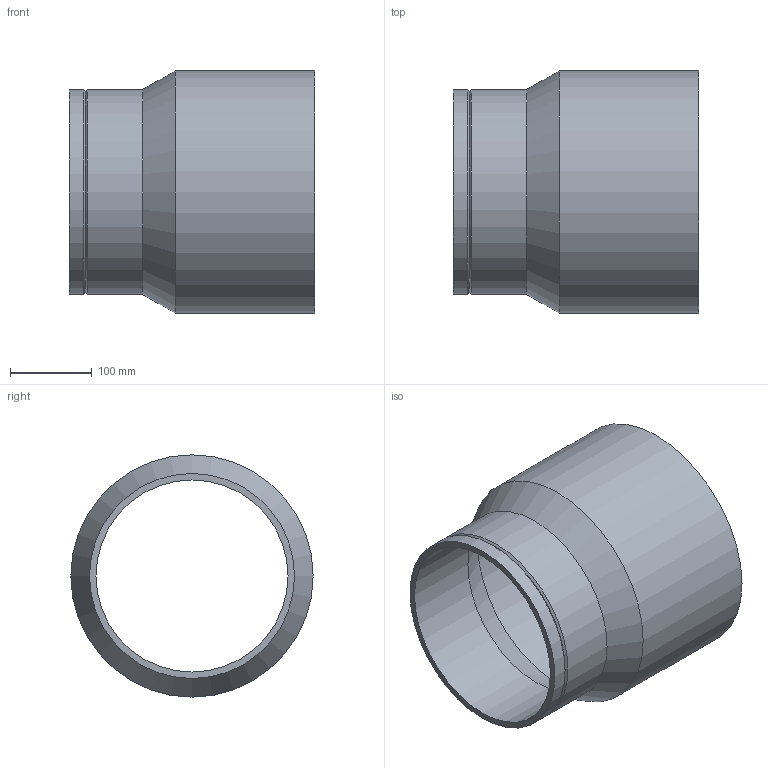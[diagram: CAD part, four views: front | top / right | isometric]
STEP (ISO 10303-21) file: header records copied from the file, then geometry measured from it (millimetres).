
FILE_DESCRIPTION(/* description */ (''),/* implementation_level */ '2;1');
FILE_NAME(/* name */ 'Z:\Geberit\Export\NewStep\371550.stp',/* time_stamp */ '2014-04-02T08:05:33+02:00',/* author */ ('nelson'),/* organization */ (''),/* preprocessor_version */ 'ST-DEVELOPER v15.2',/* originating_system */ 'Autodesk Inventor 2014',/* authorisation */ '');
FILE_SCHEMA (('AUTOMOTIVE_DESIGN { 1 0 10303 214 3 1 1 }'));
Length unit declared in the file: millimetre
Products named in the file (1): 371550
Bounding box: 300 x 295.6 x 295.6 mm (x, y, z)
Volume: 2026709.9 mm3; surface area: 535477.9 mm2
Topology: 1 solids, 1 shells, 11 faces, 20 edges, 11 vertices
Faces by surface type: cylinder 5, cone 4, plane 2
Full cylindrical faces by diameter (mm): 234.4 x1, 250 x2, 280 x1, 295.6 x1
Entity records: 249 total; most frequent: DIRECTION 46, CARTESIAN_POINT 34, AXIS2_PLACEMENT_3D 23, EDGE_LOOP 22, ORIENTED_EDGE 22, FACE_BOUND 12, CIRCLE 11, VERTEX_POINT 11
